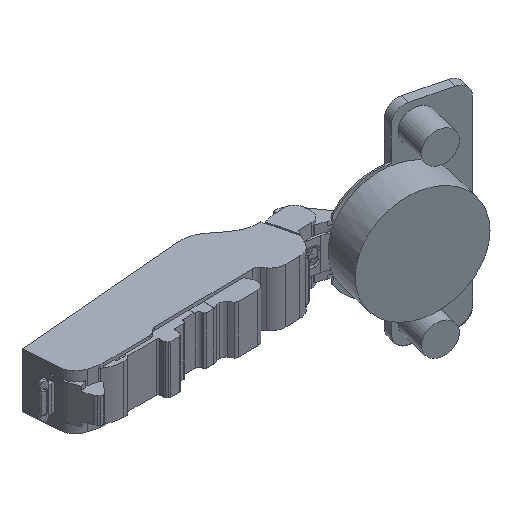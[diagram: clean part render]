
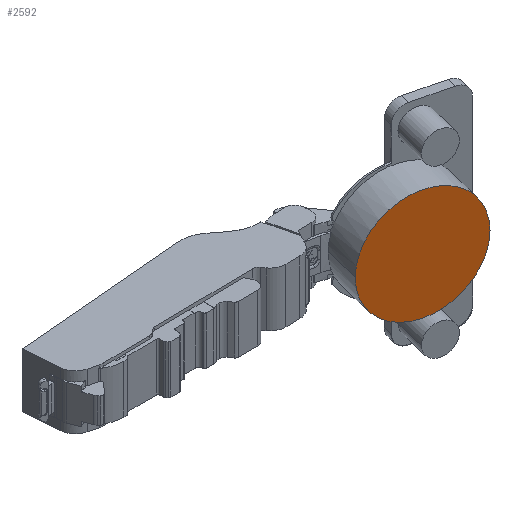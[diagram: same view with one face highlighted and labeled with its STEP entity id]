
A CAD part, isometric view. The second image highlights one B-rep face of the part: STEP entity #2592.
In plain terms, the highlighted planar face has unit normal (-0.238, -0.971, 0).
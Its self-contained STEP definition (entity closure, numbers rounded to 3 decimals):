
#711 = CARTESIAN_POINT ( 'NONE',  ( 23.589, -6.247, 0. ) ) ;
#1800 = AXIS2_PLACEMENT_3D ( 'NONE', #13790, #6017, #11231 ) ;
#2240 = PLANE ( 'NONE',  #1800 ) ;
#2592 = ADVANCED_FACE ( 'NONE', ( #15318 ), #2240, .F. ) ;
#2900 = DIRECTION ( 'NONE',  ( 0.971, -0.238, 0. ) ) ;
#3064 = CARTESIAN_POINT ( 'NONE',  ( 23.589, -6.247, 0. ) ) ;
#3415 = EDGE_LOOP ( 'NONE', ( #12691, #6283 ) ) ;
#5280 = CIRCLE ( 'NONE', #8853, 17.401 ) ;
#5941 = DIRECTION ( 'NONE',  ( 0.971, -0.238, 0. ) ) ;
#6017 = DIRECTION ( 'NONE',  ( 0.238, 0.971, 0. ) ) ;
#6283 = ORIENTED_EDGE ( 'NONE', *, *, #10872, .T. ) ;
#6731 = VERTEX_POINT ( 'NONE', #9025 ) ;
#6833 = CARTESIAN_POINT ( 'NONE',  ( 40.49, -10.391, 0. ) ) ;
#8170 = EDGE_CURVE ( 'NONE', #16065, #6731, #5280, .T. ) ;
#8296 = DIRECTION ( 'NONE',  ( -0.238, -0.971, 0. ) ) ;
#8853 = AXIS2_PLACEMENT_3D ( 'NONE', #711, #9860, #5941 ) ;
#9025 = CARTESIAN_POINT ( 'NONE',  ( 6.689, -2.103, 0. ) ) ;
#9860 = DIRECTION ( 'NONE',  ( -0.238, -0.971, 0. ) ) ;
#10872 = EDGE_CURVE ( 'NONE', #6731, #16065, #13761, .T. ) ;
#11002 = AXIS2_PLACEMENT_3D ( 'NONE', #3064, #8296, #2900 ) ;
#11231 = DIRECTION ( 'NONE',  ( -0.971, 0.238, 0. ) ) ;
#12691 = ORIENTED_EDGE ( 'NONE', *, *, #8170, .T. ) ;
#13761 = CIRCLE ( 'NONE', #11002, 17.401 ) ;
#13790 = CARTESIAN_POINT ( 'NONE',  ( 35.535, -9.177, -5.564 ) ) ;
#15318 = FACE_OUTER_BOUND ( 'NONE', #3415, .T. ) ;
#16065 = VERTEX_POINT ( 'NONE', #6833 ) ;
